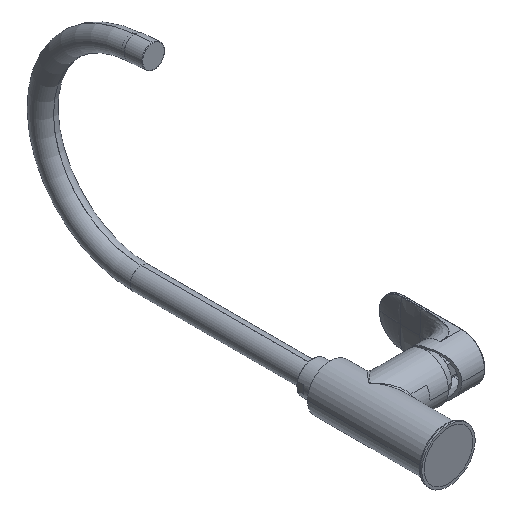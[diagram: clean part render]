
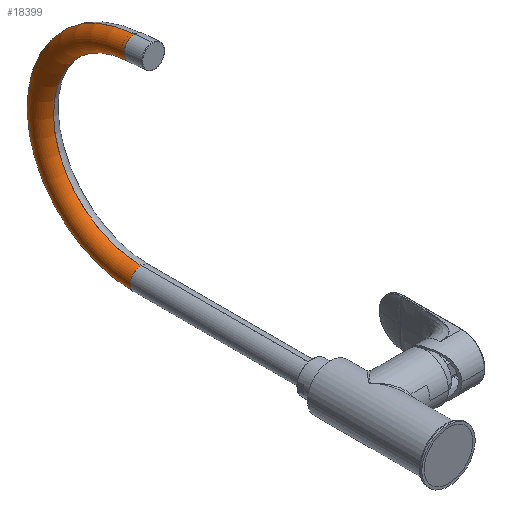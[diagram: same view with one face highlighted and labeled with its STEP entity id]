
A CAD part, isometric view. The second image highlights one B-rep face of the part: STEP entity #18399.
In plain terms, the highlighted toroidal (fillet/blend) face has major radius 90 mm and minor radius 10 mm.
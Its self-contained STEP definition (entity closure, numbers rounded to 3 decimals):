
#17236=CARTESIAN_POINT('',(0.,277.9,90.));
#17237=DIRECTION('',(1.,0.,0.));
#17238=DIRECTION('',(0.,0.,-1.));
#17239=AXIS2_PLACEMENT_3D('',#17236,#17237,#17238);
#17289=CARTESIAN_POINT('',(0.,284.088,
189.808));
#17290=CARTESIAN_POINT('',(-0.129,284.088,
189.808));
#17291=CARTESIAN_POINT('',(-0.388,284.088,
189.803));
#17292=CARTESIAN_POINT('',(-0.775,284.086,
189.781));
#17293=CARTESIAN_POINT('',(-1.161,284.083,
189.743));
#17294=CARTESIAN_POINT('',(-1.545,284.078,
189.691));
#17295=CARTESIAN_POINT('',(-1.927,284.072,
189.624));
#17296=CARTESIAN_POINT('',(-2.306,284.065,
189.542));
#17297=CARTESIAN_POINT('',(-2.682,284.057,
189.446));
#17298=CARTESIAN_POINT('',(-3.053,284.047,
189.335));
#17299=CARTESIAN_POINT('',(-3.421,284.036,
189.21));
#17300=CARTESIAN_POINT('',(-3.782,284.024,
189.071));
#17301=CARTESIAN_POINT('',(-4.139,284.01,
188.918));
#17302=CARTESIAN_POINT('',(-4.488,283.996,
188.751));
#17303=CARTESIAN_POINT('',(-4.832,283.98,
188.571));
#17304=CARTESIAN_POINT('',(-5.168,283.963,
188.378));
#17305=CARTESIAN_POINT('',(-5.496,283.945,
188.172));
#17306=CARTESIAN_POINT('',(-5.816,283.926,
187.953));
#17307=CARTESIAN_POINT('',(-6.127,283.906,
187.722));
#17308=CARTESIAN_POINT('',(-6.429,283.885,
187.479));
#17309=CARTESIAN_POINT('',(-6.721,283.862,
187.225));
#17310=CARTESIAN_POINT('',(-7.003,283.839,
186.96));
#17311=CARTESIAN_POINT('',(-7.275,283.815,
186.684));
#17312=CARTESIAN_POINT('',(-7.536,283.79,
186.398));
#17313=CARTESIAN_POINT('',(-7.785,283.764,
186.102));
#17314=CARTESIAN_POINT('',(-8.023,283.737,
185.796));
#17315=CARTESIAN_POINT('',(-8.248,283.71,
185.482));
#17316=CARTESIAN_POINT('',(-8.462,283.681,
185.159));
#17317=CARTESIAN_POINT('',(-8.662,283.653,
184.828));
#17318=CARTESIAN_POINT('',(-8.849,283.623,
184.489));
#17319=CARTESIAN_POINT('',(-9.024,283.593,
184.144));
#17320=CARTESIAN_POINT('',(-9.184,283.562,
183.792));
#17321=CARTESIAN_POINT('',(-9.331,283.531,
183.434));
#17322=CARTESIAN_POINT('',(-9.464,283.499,
183.071));
#17323=CARTESIAN_POINT('',(-9.582,283.467,
182.702));
#17324=CARTESIAN_POINT('',(-9.686,283.434,
182.33));
#17325=CARTESIAN_POINT('',(-9.776,283.401,
181.953));
#17326=CARTESIAN_POINT('',(-9.85,283.368,
181.574));
#17327=CARTESIAN_POINT('',(-9.91,283.334,
181.192));
#17328=CARTESIAN_POINT('',(-9.956,283.301,
180.808));
#17329=CARTESIAN_POINT('',(-9.986,283.267,
180.423));
#17330=CARTESIAN_POINT('',(-10.001,283.233,
180.036));
#17331=CARTESIAN_POINT('',(-10.001,283.199,
179.649));
#17332=CARTESIAN_POINT('',(-9.986,283.166,
179.263));
#17333=CARTESIAN_POINT('',(-9.955,283.132,
178.878));
#17334=CARTESIAN_POINT('',(-9.91,283.098,
178.493));
#17335=CARTESIAN_POINT('',(-9.85,283.065,
178.111));
#17336=CARTESIAN_POINT('',(-9.776,283.032,
177.732));
#17337=CARTESIAN_POINT('',(-9.686,282.999,
177.356));
#17338=CARTESIAN_POINT('',(-9.582,282.966,
176.983));
#17339=CARTESIAN_POINT('',(-9.464,282.934,
176.615));
#17340=CARTESIAN_POINT('',(-9.331,282.902,
176.251));
#17341=CARTESIAN_POINT('',(-9.184,282.871,
175.894));
#17342=CARTESIAN_POINT('',(-9.023,282.84,
175.541));
#17343=CARTESIAN_POINT('',(-8.849,282.81,
175.196));
#17344=CARTESIAN_POINT('',(-8.662,282.78,
174.857));
#17345=CARTESIAN_POINT('',(-8.461,282.751,
174.526));
#17346=CARTESIAN_POINT('',(-8.248,282.723,
174.203));
#17347=CARTESIAN_POINT('',(-8.022,282.695,
173.889));
#17348=CARTESIAN_POINT('',(-7.785,282.669,
173.583));
#17349=CARTESIAN_POINT('',(-7.535,282.643,
173.287));
#17350=CARTESIAN_POINT('',(-7.275,282.618,
173.001));
#17351=CARTESIAN_POINT('',(-7.003,282.594,
172.725));
#17352=CARTESIAN_POINT('',(-6.721,282.57,
172.46));
#17353=CARTESIAN_POINT('',(-6.428,282.548,
172.205));
#17354=CARTESIAN_POINT('',(-6.126,282.527,
171.963));
#17355=CARTESIAN_POINT('',(-5.815,282.507,
171.732));
#17356=CARTESIAN_POINT('',(-5.495,282.488,
171.513));
#17357=CARTESIAN_POINT('',(-5.167,282.47,
171.307));
#17358=CARTESIAN_POINT('',(-4.831,282.453,
171.114));
#17359=CARTESIAN_POINT('',(-4.488,282.437,
170.934));
#17360=CARTESIAN_POINT('',(-4.138,282.422,
170.767));
#17361=CARTESIAN_POINT('',(-3.782,282.409,
170.614));
#17362=CARTESIAN_POINT('',(-3.42,282.397,
170.475));
#17363=CARTESIAN_POINT('',(-3.053,282.386,
170.35));
#17364=CARTESIAN_POINT('',(-2.682,282.376,
170.239));
#17365=CARTESIAN_POINT('',(-2.306,282.368,
170.143));
#17366=CARTESIAN_POINT('',(-1.927,282.361,
170.061));
#17367=CARTESIAN_POINT('',(-1.545,282.355,
169.994));
#17368=CARTESIAN_POINT('',(-1.161,282.35,
169.941));
#17369=CARTESIAN_POINT('',(-0.775,282.347,
169.904));
#17370=CARTESIAN_POINT('',(-0.388,282.345,
169.881));
#17371=CARTESIAN_POINT('',(-0.129,282.344,
169.876));
#17372=CARTESIAN_POINT('',(0.,282.344,
169.876));
#17374=CARTESIAN_POINT('',(0.,277.9,0.));
#17375=DIRECTION('',(0.,1.,0.));
#17376=DIRECTION('',(0.,0.,-1.));
#17377=AXIS2_PLACEMENT_3D('',#17374,#17375,#17376);
#17379=CARTESIAN_POINT('',(0.,277.9,90.));
#17380=DIRECTION('',(1.,0.,0.));
#17381=DIRECTION('',(0.,0.,-1.));
#17382=AXIS2_PLACEMENT_3D('',#17379,#17380,#17381);
#17766=CARTESIAN_POINT('',(0.,277.9,-10.));
#17767=CARTESIAN_POINT('',(0.,277.9,10.));
#17768=VERTEX_POINT('',#17766);
#17769=VERTEX_POINT('',#17767);
#17894=VERTEX_POINT('',#17289);
#17895=VERTEX_POINT('',#17372);
#18388=CARTESIAN_POINT('',(0.,277.9,90.));
#18389=DIRECTION('',(1.,0.,0.));
#18390=DIRECTION('',(0.,0.,1.));
#18391=AXIS2_PLACEMENT_3D('',#18388,#18389,#18390);
#18392=TOROIDAL_SURFACE('',#18391,90.,10.);
#18393=ORIENTED_EDGE('',*,*,#18316,.T.);
#18394=ORIENTED_EDGE('',*,*,#18300,.F.);
#18395=ORIENTED_EDGE('',*,*,#18270,.F.);
#18396=ORIENTED_EDGE('',*,*,#18297,.T.);
#18397=EDGE_LOOP('',(#18393,#18394,#18395,#18396));
#18398=FACE_OUTER_BOUND('',#18397,.F.);
#18399=ADVANCED_FACE('',(#18398),#18392,.T.);
#17240=CIRCLE('',#17239,80.);
#17373=B_SPLINE_CURVE_WITH_KNOTS('',3,(#17289,#17290,#17291,#17292,#17293,
#17294,#17295,#17296,#17297,#17298,#17299,#17300,#17301,#17302,#17303,#17304,
#17305,#17306,#17307,#17308,#17309,#17310,#17311,#17312,#17313,#17314,#17315,
#17316,#17317,#17318,#17319,#17320,#17321,#17322,#17323,#17324,#17325,#17326,
#17327,#17328,#17329,#17330,#17331,#17332,#17333,#17334,#17335,#17336,#17337,
#17338,#17339,#17340,#17341,#17342,#17343,#17344,#17345,#17346,#17347,#17348,
#17349,#17350,#17351,#17352,#17353,#17354,#17355,#17356,#17357,#17358,#17359,
#17360,#17361,#17362,#17363,#17364,#17365,#17366,#17367,#17368,#17369,#17370,
#17371,#17372),.UNSPECIFIED.,.F.,.F.,(4,1,1,1,1,1,1,1,1,1,1,1,1,1,1,1,1,1,1,1,1,
1,1,1,1,1,1,1,1,1,1,1,1,1,1,1,1,1,1,1,1,1,1,1,1,1,1,1,1,1,1,1,1,1,1,1,1,1,1,1,1,
1,1,1,1,1,1,1,1,1,1,1,1,1,1,1,1,1,1,1,1,4),(0.,0.012,
0.025,0.037,0.049,0.062,
0.074,0.086,0.099,0.111,
0.123,0.136,0.148,0.16,
0.173,0.185,0.198,0.21,
0.222,0.235,0.247,0.259,
0.272,0.284,0.296,0.309,
0.321,0.333,0.346,0.358,
0.37,0.383,0.395,0.407,
0.42,0.432,0.444,0.457,
0.469,0.481,0.494,0.506,
0.519,0.531,0.543,0.556,
0.568,0.58,0.593,0.605,
0.617,0.63,0.642,0.654,
0.667,0.679,0.691,0.704,
0.716,0.728,0.741,0.753,
0.765,0.778,0.79,0.802,
0.815,0.827,0.84,0.852,
0.864,0.877,0.889,0.901,
0.914,0.926,0.938,0.951,
0.963,0.975,0.988,1.),.UNSPECIFIED.);
#17378=CIRCLE('',#17377,10.);
#17383=CIRCLE('',#17382,100.);
#18270=EDGE_CURVE('',#17768,#17769,#17378,.T.);
#18297=EDGE_CURVE('',#17768,#17894,#17383,.T.);
#18300=EDGE_CURVE('',#17769,#17895,#17240,.T.);
#18316=EDGE_CURVE('',#17894,#17895,#17373,.T.);
